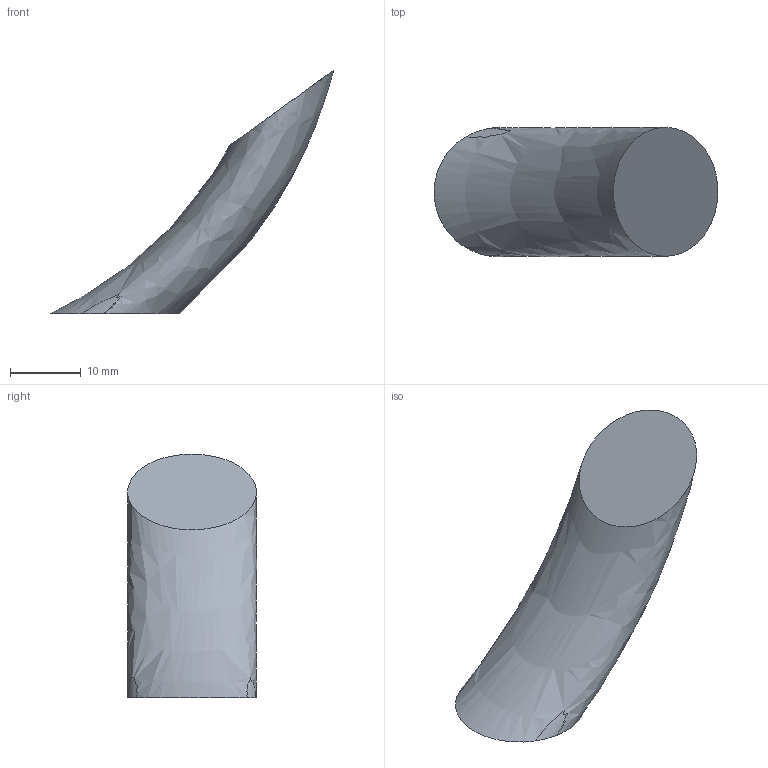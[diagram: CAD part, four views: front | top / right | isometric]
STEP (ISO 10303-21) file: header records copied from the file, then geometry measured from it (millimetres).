
FILE_DESCRIPTION(('Open CASCADE Model'),'2;1');
FILE_NAME('Open CASCADE Shape Model','2026-10-26T08:01:58',('Author'),( 'Open CASCADE'),'Open CASCADE STEP processor 7.9','Open CASCADE 7.9' ,'Unknown');
FILE_SCHEMA(('AUTOMOTIVE_DESIGN { 1 0 10303 214 1 1 1 1 }'));
Length unit declared in the file: millimetre
Products named in the file (1): Open CASCADE STEP translator 7.9 1
Bounding box: 40 x 18.2 x 34.36 mm (x, y, z)
Volume: 5363.9 mm3; surface area: 2232.3 mm2
Topology: 1 solids, 1 shells, 5 faces, 10 edges, 7 vertices
Faces by surface type: cylinder 2, plane 2, bspline 1
Entity records: 4124 total; most frequent: CARTESIAN_POINT 3949, B_SPLINE_CURVE_WITH_KNOTS 26, ORIENTED_EDGE 20, PCURVE 20, DEFINITIONAL_REPRESENTATION 20, DIRECTION 15, EDGE_CURVE 10, SURFACE_CURVE 9
